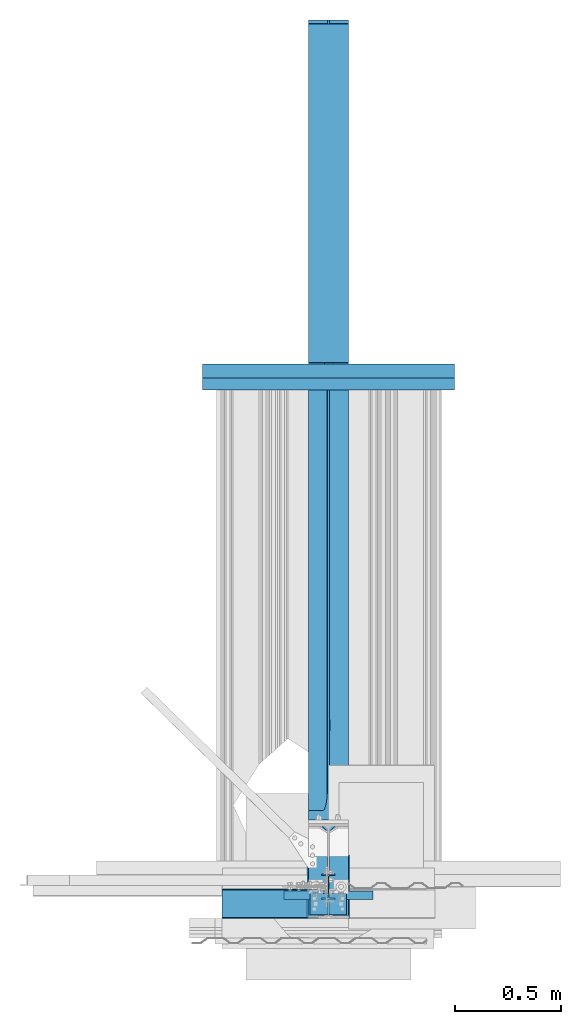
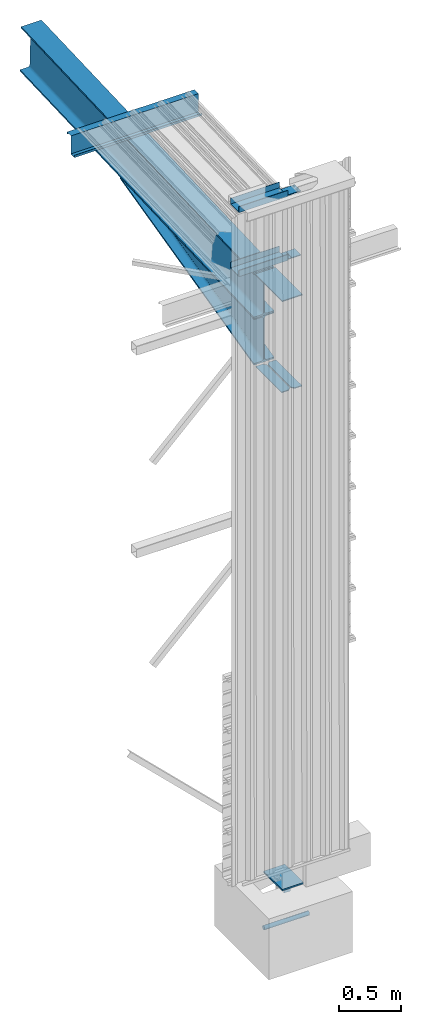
# One storey, part 2 of 21: 14 beams, 3 elements without a shape of their own.
"""IFC2X3 building model written with IfcOpenShell, lengths in millimetres."""

import ifcopenshell
import ifcopenshell.guid

model = None  # the IFC model being written
_history = None  # IfcOwnerHistory: only IFC2X3 demands one
_inside = {}  # id of a spatial element -> (the spatial element, [elements in it])
_under = {}  # id of a project, library or spatial element -> (it, [spatial elements below it])
_declared = {}  # id of a project -> (the project, [libraries it declares])
_typed = {}  # id of a type object -> (the type object, [elements of that type])
_made_of = {}  # id of a material, layer set ... -> (it, [elements and type objects made of it])


def new_model(schema):
    """Start an empty IFC model of exactly this schema.

    Asked for "IFC4X3", IfcOpenShell would pick the latest addendum, in which some entities
    have other attributes; the version numbers below select the first issue.
    IFC2X3 requires an IfcOwnerHistory on every rooted entity: one is made here for all.
    """
    global model, _history
    if schema == "IFC4X3":
        model = ifcopenshell.file(schema_version=(4, 3, 0, 0))
    else:
        model = ifcopenshell.file(schema=schema)
    _inside.clear()
    _under.clear()
    _declared.clear()
    _typed.clear()
    _made_of.clear()
    _history = None
    if model.schema == "IFC2X3":
        org = make("IfcOrganization", Name="unknown")
        user = make(
            "IfcPersonAndOrganization",
            ThePerson=make("IfcPerson", FamilyName="unknown"),
            TheOrganization=org,
        )
        app = make(
            "IfcApplication",
            ApplicationDeveloper=org,
            Version="unknown",
            ApplicationFullName="unknown",
            ApplicationIdentifier="unknown",
        )
        _history = make(
            "IfcOwnerHistory",
            OwningUser=user,
            OwningApplication=app,
            ChangeAction="ADDED",
            CreationDate=0,
        )
    return model


def make(cls, **values):
    """One entity of the class cls with the attributes given. An attribute that is None is left unset."""
    return model.create_entity(
        cls, **{name: value for name, value in values.items() if value is not None}
    )


def rooted(cls, **values):
    """An entity with a GlobalId (a new one), such as an element, a storey or a relation."""
    return make(cls, GlobalId=ifcopenshell.guid.new(), OwnerHistory=_history, **values)


def si_unit(unit_type, name, prefix=None):
    """IfcSIUnit, for example si_unit("LENGTHUNIT", "METRE", prefix="MILLI")."""
    return make("IfcSIUnit", UnitType=unit_type, Prefix=prefix, Name=name)


def assignment(units):
    """IfcUnitAssignment: the units of a project."""
    return None if units is None else make("IfcUnitAssignment", Units=units)


def point(xyz):
    """IfcCartesianPoint."""
    return None if xyz is None else make("IfcCartesianPoint", Coordinates=xyz)


def direction(xyz):
    """IfcDirection."""
    return None if xyz is None else make("IfcDirection", DirectionRatios=xyz)


def frame(location, z_axis=None, x_axis=None):
    """IfcAxis2Placement3D, a coordinate frame: its origin and axes. An axis left out is left unset."""
    return make(
        "IfcAxis2Placement3D",
        Location=point(location),
        Axis=direction(z_axis),
        RefDirection=direction(x_axis),
    )


def frame_2d(location, x_axis=None):
    """IfcAxis2Placement2D, a coordinate frame in the plane: its origin and x axis."""
    return make(
        "IfcAxis2Placement2D", Location=point(location), RefDirection=direction(x_axis)
    )


def origin_with_axes():
    """The frame at (0, 0, 0) with the z axis (0, 0, 1) and the x axis (1, 0, 0) written out."""
    return frame((0.0, 0.0, 0.0), z_axis=(0.0, 0.0, 1.0), x_axis=(1.0, 0.0, 0.0))


def origin_2d_with_axis():
    """The frame at (0, 0) in the plane with the x axis (1, 0) written out."""
    return frame_2d((0.0, 0.0), x_axis=(1.0, 0.0))


def place(relative_to, where):
    """IfcLocalPlacement: puts the frame where relative to a parent placement (None: the world)."""
    return make(
        "IfcLocalPlacement", PlacementRelTo=relative_to, RelativePlacement=where
    )


def context(
    kind, dimensions, precision=None, world=None, true_north=None, identifier=None
):
    """IfcGeometricRepresentationContext, for example the 3D "Model" context."""
    return make(
        "IfcGeometricRepresentationContext",
        ContextIdentifier=identifier,
        ContextType=kind,
        CoordinateSpaceDimension=dimensions,
        Precision=precision,
        WorldCoordinateSystem=world,
        TrueNorth=true_north,
    )


def project(units=None, contexts=None):
    """IfcProject with its units and contexts."""
    return rooted(
        "IfcProject",
        Name="project",
        RepresentationContexts=contexts,
        UnitsInContext=assignment(units),
    )


def spatial(cls, under=None, at=None, **own):
    """A site, building, storey or space (cls), placed at a placement, below another one or the project."""
    s = rooted(cls, ObjectPlacement=at, **own)
    if under is not None:
        _under.setdefault(under.id(), (under, []))[1].append(s)
    return s


def polyline(points):
    """IfcPolyline through the points."""
    return make("IfcPolyline", Points=[point(p) for p in points])


def profile(cls, at=None, kind="AREA", **sizes):
    """A parametric profile (cls). Its sizes go by their IFC names, for example OverallWidth=200.0."""
    return make(cls, ProfileType=kind, Position=at, **sizes)


def rectangle(**sizes):
    """IfcRectangleProfileDef."""
    return profile("IfcRectangleProfileDef", **sizes)


def circle(**sizes):
    """IfcCircleProfileDef."""
    return profile("IfcCircleProfileDef", **sizes)


def i_section(**sizes):
    """IfcIShapeProfileDef."""
    return profile("IfcIShapeProfileDef", **sizes)


def u_section(**sizes):
    """IfcUShapeProfileDef."""
    return profile("IfcUShapeProfileDef", **sizes)


def outline(outer, holes=None, kind="AREA"):
    """IfcArbitraryClosedProfileDef: a profile drawn as a closed curve; with holes, ...WithVoids."""
    if holes is None:
        return make("IfcArbitraryClosedProfileDef", ProfileType=kind, OuterCurve=outer)
    return make(
        "IfcArbitraryProfileDefWithVoids",
        ProfileType=kind,
        OuterCurve=outer,
        InnerCurves=holes,
    )


def extrude(swept, where, along, depth):
    """IfcExtrudedAreaSolid: the profile swept, set in the frame where, extruded along a direction by depth."""
    return make(
        "IfcExtrudedAreaSolid",
        SweptArea=swept,
        Position=where,
        ExtrudedDirection=direction(along),
        Depth=depth,
    )


def clip(a, b, op="DIFFERENCE"):
    """IfcBooleanClippingResult: the solid a cut by the half space b."""
    return make(
        "IfcBooleanClippingResult", Operator=op, FirstOperand=a, SecondOperand=b
    )


def halfspace(plane, agree):
    """IfcHalfSpaceSolid: all space on one side of the plane z = 0 of the frame plane."""
    return make(
        "IfcHalfSpaceSolid",
        BaseSurface=make("IfcPlane", Position=plane),
        AgreementFlag=agree,
    )


def shape(context_of_items, identifier, shape_type, items):
    """IfcShapeRepresentation: the items that make up one representation, for example the "Body"."""
    return make(
        "IfcShapeRepresentation",
        ContextOfItems=context_of_items,
        RepresentationIdentifier=identifier,
        RepresentationType=shape_type,
        Items=items,
    )


def material(Name=None, Category=None):
    """IfcMaterial."""
    return make("IfcMaterial", Name=Name, Category=Category)


def made_of(thing, what):
    """Note that an element or type object is made of a material, layer set ...; save() writes the relation."""
    if what is not None:
        _made_of.setdefault(what.id(), (what, []))[1].append(thing)
    return thing


def type_object(cls, material=None, **own):
    """A type object (cls), such as IfcWallType, which elements share."""
    return made_of(rooted(cls, **own), material)


def element(
    cls,
    number,
    at=None,
    inside=None,
    cuts=None,
    type_object=None,
    material=None,
    context=None,
    identifier="Body",
    shape_type=None,
    held_by="IfcProductDefinitionShape",
    body=None,
    shapes=None,
    **own,
):
    """One element of the class cls, such as IfcWall. Its Tag is "e" and its number.

    at: its placement. inside: the storey or other place that contains it. cuts: it is an
    opening in that element (IfcRelVoidsElement). A single representation is given by context,
    identifier, shape_type and body (its items); several are given by shapes. held_by: the class
    of the entity that holds the representations. save() writes the other relations.
    """
    e = rooted(cls, Tag="e%d" % number, ObjectPlacement=at, **own)
    if body is not None:
        shapes = [shape(context, identifier, shape_type, body)]
    if shapes is not None:
        e.Representation = make(held_by, Representations=shapes)
    if inside is not None:
        _inside.setdefault(inside.id(), (inside, []))[1].append(e)
    if cuts is not None:
        rooted(
            "IfcRelVoidsElement", RelatingBuildingElement=cuts, RelatedOpeningElement=e
        )
    if type_object is not None:
        _typed.setdefault(type_object.id(), (type_object, []))[1].append(e)
    return made_of(e, material)


def aggregate(whole, parts):
    """IfcRelAggregates: a whole, such as a stair, and the parts it consists of."""
    return rooted("IfcRelAggregates", RelatingObject=whole, RelatedObjects=parts)


def save(model, path):
    """Write the relations noted so far, then the file.

    IfcRelAggregates (storeys below a building ...), IfcRelContainedInSpatialStructure (elements
    in a storey), IfcRelDefinesByType, IfcRelAssociatesMaterial and IfcRelDeclares: one each for
    every whole, place, type object, material and project.
    """
    for whole, parts in _under.values():
        aggregate(whole, parts)
    for where, things in _inside.values():
        rooted(
            "IfcRelContainedInSpatialStructure",
            RelatedElements=things,
            RelatingStructure=where,
        )
    for kind, things in _typed.values():
        rooted("IfcRelDefinesByType", RelatedObjects=things, RelatingType=kind)
    for what, things in _made_of.values():
        rooted("IfcRelAssociatesMaterial", RelatedObjects=things, RelatingMaterial=what)
    for by, libraries in _declared.values():
        rooted("IfcRelDeclares", RelatingContext=by, RelatedDefinitions=libraries)
    model.write(path)


model = new_model("IFC2X3")

# Units and contexts
model_context_1 = context("Model", 3, precision=1e-05, world=origin_with_axes(), identifier="Body")
model_context_2 = context("Model", 3, precision=1e-05, world=origin_with_axes())
ifc_project = project(units=[si_unit("LENGTHUNIT", "METRE", prefix="MILLI"), si_unit("AREAUNIT", "SQUARE_METRE"), si_unit("VOLUMEUNIT", "CUBIC_METRE"), si_unit("MASSUNIT", "GRAM", prefix="KILO"), si_unit("TIMEUNIT", "SECOND"), si_unit("PLANEANGLEUNIT", "RADIAN"), si_unit("SOLIDANGLEUNIT", "STERADIAN"), si_unit("THERMODYNAMICTEMPERATUREUNIT", "DEGREE_CELSIUS"), si_unit("LUMINOUSINTENSITYUNIT", "LUMEN")], contexts=[model_context_1, model_context_2])

# Site, building, storey
site_placement = place(None, origin_with_axes())
site = spatial("IfcSite", under=ifc_project, at=site_placement, Name="Undefined", CompositionType="ELEMENT")
building_placement = place(site_placement, origin_with_axes())
building = spatial("IfcBuilding", under=site, at=building_placement, Name="Undefined", CompositionType="ELEMENT")
storey_placement = place(building_placement, origin_with_axes())
storey = spatial("IfcBuildingStorey", under=building, at=storey_placement, Name="Undefined", CompositionType="ELEMENT")

# Beam
ifc_material = material(Name="STEEL/S235JR")
beam_type_1 = type_object("IfcBeamType", Name="PLAT8*100", PredefinedType="NOTDEFINED")
beam_1_placement = place(storey_placement, frame((2.44931, -156.90824, 5896.0172), z_axis=(4.4408925e-19, 1.0, 3.1900003e-05), x_axis=(1.0, 0.0, 0.0)))
element("IfcBeam", 1, at=beam_1_placement, inside=storey, type_object=beam_type_1, material=ifc_material, Name="plat", ObjectType="PLAT8*100", context=model_context_1, shape_type="SweptSolid", body=[
    extrude(rectangle(XDim=8.0, YDim=100.0, at=origin_2d_with_axis()), frame((84.0, 9.094947e-13, -4.0444529e-33), z_axis=(-1.0, 0.0, 4.8148249e-35), x_axis=(0.0, -1.0, 0.0)), (0.0, 0.0, 1.0), 84.0),
])

# Assembly, beams
assembly_1 = element("IfcElementAssembly", 2, inside=storey, Name="Baïonnette", PredefinedType="NOTDEFINED")
beam_2_placement = place(storey_placement, frame((86.35, -154.99986, 6526.0), z_axis=(4.4408925e-19, 1.0, 3.1900003e-05), x_axis=(-1.0, 0.0, 4.8148249e-35)))
beam_2 = element("IfcBeam", 3, at=beam_2_placement, type_object=beam_type_1, material=ifc_material, Name="plat", ObjectType="PLAT8*100", context=model_context_1, shape_type="SweptSolid", body=[
    extrude(rectangle(XDim=8.0, YDim=100.0, at=origin_2d_with_axis()), frame((172.7, 0.0, -1.0643459e-30), z_axis=(-1.0, 0.0, 4.8148249e-35), x_axis=(0.0, -1.0, 0.0)), (0.0, 0.0, 1.0), 172.7),
])
beam_3_placement = place(storey_placement, frame((-2.45069, -156.90824, 5896.0172), z_axis=(4.4408925e-19, 1.0, 3.1900003e-05), x_axis=(-1.0, 0.0, 4.8148249e-35)))
beam_3 = element("IfcBeam", 4, at=beam_3_placement, type_object=beam_type_1, material=ifc_material, Name="plat", ObjectType="PLAT8*100", context=model_context_1, shape_type="SweptSolid", body=[
    extrude(rectangle(XDim=8.0, YDim=100.0, at=origin_2d_with_axis()), frame((84.0, 9.094947e-13, -4.0444529e-33), z_axis=(-1.0, 0.0, 4.8148249e-35), x_axis=(0.0, -1.0, 0.0)), (0.0, 0.0, 1.0), 84.0),
])
aggregate(assembly_1, [beam_2, beam_3])

# Beams
beam_type_2 = type_object("IfcBeamType", Name="UPF-140*60*4", PredefinedType="NOTDEFINED")
beam_4_placement = place(storey_placement, frame((-502.35, -155.00095, 6560.0), z_axis=(4.4408925e-19, 1.0, 3.1900003e-05), x_axis=(1.0, 0.0, 0.0)))
element("IfcBeam", 5, at=beam_4_placement, inside=storey, type_object=beam_type_2, material=ifc_material, Name="lisseBasse", ObjectType="UPF-140*60*4", context=model_context_1, shape_type="Clipping", body=[
    clip(extrude(u_section(Depth=140.0, FlangeWidth=60.0, WebThickness=4.0, FlangeThickness=4.0, at=origin_2d_with_axis()), frame((504.7, -9.094947e-13, 1.9440337e-29), z_axis=(-1.0, 0.0, 4.8148249e-35), x_axis=(0.0, -1.0, 0.0)), (0.0, 0.0, 1.0), 504.7), halfspace(frame((455.85, -30.0, -70.0), z_axis=(1.0, 0.0, 0.0), x_axis=(0.0, 0.0, 1.0)), False)),
])
beam_5_placement = place(storey_placement, frame((-502.35, -154.97824, 5929.55), z_axis=(4.4408925e-19, 1.0, 3.1900003e-05), x_axis=(1.0, 0.0, 0.0)))
element("IfcBeam", 6, at=beam_5_placement, inside=storey, type_object=beam_type_2, material=ifc_material, Name="lisseBasse", ObjectType="UPF-140*60*4", context=model_context_1, shape_type="Clipping", body=[
    clip(extrude(u_section(Depth=140.0, FlangeWidth=60.0, WebThickness=4.0, FlangeThickness=4.0, at=origin_2d_with_axis()), frame((504.69995, 0.0, 0.0), z_axis=(-1.0, 0.0, 4.8148249e-35), x_axis=(0.0, -1.0, 0.0)), (0.0, 0.0, 1.0), 504.69995), halfspace(frame((455.85, -30.0, -70.0), z_axis=(1.0, 0.0, 0.0), x_axis=(0.0, 0.0, 1.0)), False)),
])
beam_type_3 = type_object("IfcBeamType", Name="D40", PredefinedType="NOTDEFINED")
beam_6_placement = place(storey_placement, frame((210.0, -115.00102, -691.0), z_axis=(4.4408925e-19, 1.0, 3.1900003e-05), x_axis=(-1.0, 0.0, 4.8148249e-35)))
element("IfcBeam", 7, at=beam_6_placement, inside=storey, type_object=beam_type_3, material=ifc_material, Name="clé", ObjectType="D40", context=model_context_1, shape_type="SweptSolid", body=[
    extrude(circle(Radius=20.0, at=origin_2d_with_axis()), frame((420.0, -1.1368684e-13, 9.3831307e-30), z_axis=(-1.0, 0.0, 4.8148249e-35), x_axis=(0.0, -1.0, 0.0)), (0.0, 0.0, 1.0), 420.0),
])
beam_type_4 = type_object("IfcBeamType", Name="IPE120", PredefinedType="NOTDEFINED")
beam_7_placement = place(storey_placement, frame((-3.07872e-08, -75.000255, -300.0), z_axis=(0.0, 1.0, 0.0), x_axis=(1.2908193e-13, -1.8000416e-13, -1.0)))
element("IfcBeam", 8, at=beam_7_placement, inside=storey, type_object=beam_type_4, material=ifc_material, Name="BECHE", ObjectType="IPE120", context=model_context_1, shape_type="SweptSolid", body=[
    extrude(i_section(OverallWidth=64.0, OverallDepth=120.0, WebThickness=4.4000001, FlangeThickness=6.3000002, FilletRadius=7.0, at=origin_2d_with_axis()), frame((100.0, 0.0, 0.0), z_axis=(-1.0, 0.0, 4.8148249e-35), x_axis=(0.0, -1.0, 0.0)), (0.0, 0.0, 1.0), 100.0),
])

# Assembly, beam
assembly_2 = element("IfcElementAssembly", 9, inside=storey, Name="POTEAU", PredefinedType="NOTDEFINED")
beam_type_5 = type_object("IfcBeamType", Name="PLAT15*200", PredefinedType="NOTDEFINED")
beam_8_placement = place(storey_placement, frame((-8.6862073e-12, -225.0, -292.5), z_axis=(-1.0, 0.0, 4.8148249e-35), x_axis=(0.0, 1.0, 0.0)))
beam_8 = element("IfcBeam", 10, at=beam_8_placement, type_object=beam_type_5, material=ifc_material, Name="PLAT", ObjectType="PLAT15*200", context=model_context_1, shape_type="SweptSolid", body=[
    extrude(rectangle(XDim=15.0, YDim=200.0, at=origin_2d_with_axis()), frame((300.0, 0.0, 6.4632163e-27), z_axis=(-1.0, 0.0, 4.8148249e-35), x_axis=(0.0, -1.0, 0.0)), (0.0, 0.0, 1.0), 300.0),
])

# Assembly, beams
assembly_3 = element("IfcElementAssembly", 11, inside=storey, Name="POUTRE", PredefinedType="NOTDEFINED")
beam_type_6 = type_object("IfcBeamType", Name="IPE450", PredefinedType="NOTDEFINED")
beam_9_placement = place(storey_placement, frame((9.2217735e-10, 186.54858, 4820.1813), z_axis=(1.9469733e-13, -0.23756181, 0.97137243), x_axis=(4.9985779e-14, 0.97137243, 0.23756181)))
beam_9 = element("IfcBeam", 12, at=beam_9_placement, type_object=beam_type_6, material=ifc_material, Name="HAUNCH", ObjectType="IPE450", context=model_context_1, shape_type="Clipping", body=[
    clip(clip(clip(extrude(i_section(OverallWidth=190.0, OverallDepth=450.0, WebThickness=9.3999996, FlangeThickness=14.6, FilletRadius=21.0, at=origin_2d_with_axis()), frame((3379.7044, 1.0339758e-25, 0.0), z_axis=(-1.0, 0.0, 4.8148249e-35), x_axis=(0.0, -1.0, 0.0)), (0.0, 0.0, 1.0), 4425.6978), halfspace(frame((453.26245, 2.0679515e-25, 1628.3561), z_axis=(-0.97137243, -2.160612e-16, 0.23756181), x_axis=(0.0, -1.0, 0.0)), False)), halfspace(frame((1691.9678, -95.0, -101.22143), z_axis=(0.19854817, 0.0, 0.98009113), x_axis=(-0.98009113, 0.0, 0.19854817)), False)), halfspace(frame((2022.6663, 0.0, -1046.8385), z_axis=(0.97137243, 1.080306e-16, -0.23756181), x_axis=(0.0, -1.0, 0.0)), False)),
])
beam_10_placement = place(storey_placement, frame((1.0127237e-09, 8.9928086, 5275.1792), z_axis=(2.0074543e-13, -0.039968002, 0.99920096), x_axis=(1.034092e-14, 0.99920096, 0.039968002)))
beam_10 = element("IfcBeam", 13, at=beam_10_placement, type_object=beam_type_6, material=ifc_material, Name="POUTRE", ObjectType="IPE450", context=model_context_1, shape_type="Clipping", body=[
    clip(extrude(i_section(OverallWidth=190.0, OverallDepth=450.0, WebThickness=9.3999996, FlangeThickness=14.6, FilletRadius=21.0, at=origin_2d_with_axis()), frame((4003.1985, -2.0047922e-25, 0.0), z_axis=(-1.0, 0.0, 4.8148249e-35), x_axis=(0.0, -1.0, 0.0)), (0.0, 0.0, 1.0), 3799.2475), halfspace(frame((222.19193, -4.93086e-13, -225.0), z_axis=(0.99920096, -3.6350686e-17, -0.039968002), x_axis=(0.0, -1.0, 0.0)), True)),
])
aggregate(assembly_3, [beam_9, beam_10])

# Beam
beam_type_7 = type_object("IfcBeamType", Name="PL10*190", PredefinedType="NOTDEFINED")
beam_11_placement = place(storey_placement, frame((-1.2991096e-11, 219.0, 5508.9994), z_axis=(1.0, 0.0, 0.0), x_axis=(0.0, -1.0, 0.0)))
beam_11 = element("IfcBeam", 14, at=beam_11_placement, type_object=beam_type_7, material=ifc_material, Name="CAP PLATE", ObjectType="PL10*190", context=model_context_1, shape_type="SweptSolid", body=[
    extrude(rectangle(XDim=10.0, YDim=190.0, at=origin_2d_with_axis()), frame((438.0, 0.0, 8.418438e-29), z_axis=(-1.0, 0.0, 4.8148249e-35), x_axis=(0.0, -1.0, 0.0)), (0.0, 0.0, 1.0), 438.0),
])

beam_type_8 = type_object("IfcBeamType", Name="Z.180.150.65", PredefinedType="NOTDEFINED")
beam_12_placement = place(storey_placement, frame((-595.0, 2328.5895, 5683.1429), z_axis=(0.0, 0.0, 1.0), x_axis=(1.0, 0.0, 0.0)))
element("IfcBeam", 15, at=beam_12_placement, inside=storey, type_object=beam_type_8, material=ifc_material, Name="POUTRE", ObjectType="Z.180.150.65", context=model_context_1, shape_type="SweptSolid", body=[
    extrude(outline(polyline([(58.75, -90.0), (58.75, -67.5), (57.25, -67.5), (57.25, -88.5), (0.75, -88.5), (0.75, 90.0), (-64.25, 90.0), (-64.25, 67.5), (-62.75, 67.5), (-62.75, 88.5), (-0.75, 88.5), (-0.75, -90.0), (58.75, -90.0)])), frame((1189.9999, 1.5160936e-28, 0.0), z_axis=(-1.0, 0.0, 4.8148249e-35), x_axis=(0.0, -1.0, 0.0)), (0.0, 0.0, 1.0), 1189.9999),
])

beam_type_9 = type_object("IfcBeamType", Name="PLAT8*90", PredefinedType="NOTDEFINED")
beam_13_placement = place(storey_placement, frame((-49.7, -210.0, 4604.4424), z_axis=(1.0, 0.0, 0.0), x_axis=(0.0, 1.0, 0.0)))
beam_13 = element("IfcBeam", 16, at=beam_13_placement, type_object=beam_type_9, material=ifc_material, Name="TOLE", ObjectType="PLAT8*90", context=model_context_1, shape_type="Clipping", body=[
    clip(clip(extrude(rectangle(XDim=8.0, YDim=90.0, at=origin_2d_with_axis()), frame((420.0, -1.1368684e-13, 9.3831307e-30), z_axis=(-1.0, 0.0, 4.8148249e-35), x_axis=(0.0, -1.0, 0.0)), (0.0, 0.0, 1.0), 420.0), halfspace(frame((485.0, -4.0, -45.0), z_axis=(0.70710678, 0.0, 0.70710678), x_axis=(-0.70710678, 0.0, 0.70710678)), False)), halfspace(frame((-65.0, 4.0, -45.0), z_axis=(-0.70710678, 0.0, 0.70710678), x_axis=(0.70710678, 0.0, 0.70710678)), False)),
])

beam_14_placement = place(storey_placement, frame((49.7, -210.0, 4604.4424), z_axis=(1.0, 0.0, 0.0), x_axis=(0.0, 1.0, 0.0)))
beam_14 = element("IfcBeam", 17, at=beam_14_placement, type_object=beam_type_9, material=ifc_material, Name="TOLE", ObjectType="PLAT8*90", context=model_context_1, shape_type="Clipping", body=[
    clip(clip(extrude(rectangle(XDim=8.0, YDim=90.0, at=origin_2d_with_axis()), frame((420.0, -1.1368684e-13, 9.3831307e-30), z_axis=(-1.0, 0.0, 4.8148249e-35), x_axis=(0.0, -1.0, 0.0)), (0.0, 0.0, 1.0), 420.0), halfspace(frame((395.0, -4.0, -45.0), z_axis=(0.70710678, 0.0, -0.70710678), x_axis=(0.70710678, 0.0, 0.70710678)), False)), halfspace(frame((25.0, 4.0, -45.0), z_axis=(-0.70710678, 0.0, -0.70710678), x_axis=(-0.70710678, 0.0, 0.70710678)), False)),
])

aggregate(assembly_2, [beam_8, beam_11, beam_13, beam_14])

save(model, "model.ifc")
